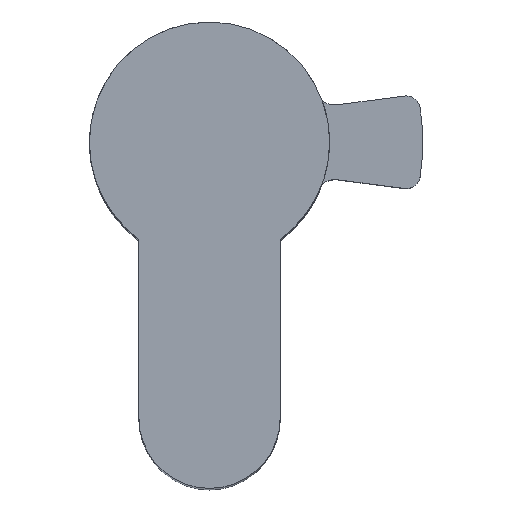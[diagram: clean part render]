
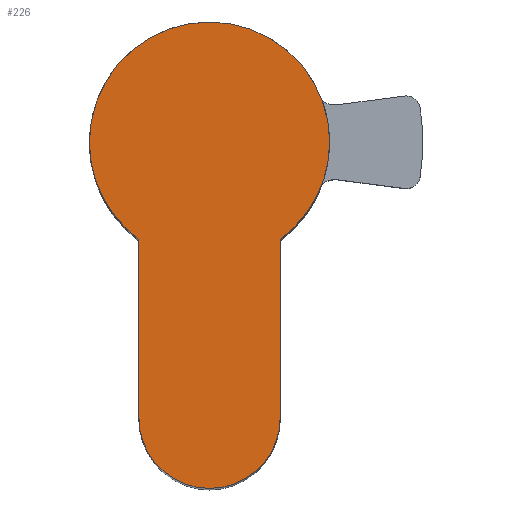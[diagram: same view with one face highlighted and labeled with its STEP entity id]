
A CAD part, top view. The second image highlights one B-rep face of the part: STEP entity #226.
In plain terms, the highlighted planar face has unit normal (0, 0, 1).
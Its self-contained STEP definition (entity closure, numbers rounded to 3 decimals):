
#24 = EDGE_CURVE ( 'NONE', #1048, #1333, #161, .T. ) ;
#34 = AXIS2_PLACEMENT_3D ( 'NONE', #697, #83, #1166 ) ;
#83 = DIRECTION ( 'NONE',  ( 0., 0., 1. ) ) ;
#107 = EDGE_CURVE ( 'NONE', #1333, #436, #1378, .T. ) ;
#152 = ORIENTED_EDGE ( 'NONE', *, *, #24, .T. ) ;
#161 = CIRCLE ( 'NONE', #1455, 8.5 ) ;
#167 = CIRCLE ( 'NONE', #445, 8.5 ) ;
#184 = CARTESIAN_POINT ( 'NONE',  ( -5., -19.5, 10. ) ) ;
#185 = ORIENTED_EDGE ( 'NONE', *, *, #994, .T. ) ;
#221 = DIRECTION ( 'NONE',  ( 1., 0., 0. ) ) ;
#226 = ADVANCED_FACE ( 'NONE', ( #858 ), #1426, .T. ) ;
#237 = ORIENTED_EDGE ( 'NONE', *, *, #1445, .T. ) ;
#254 = ORIENTED_EDGE ( 'NONE', *, *, #1106, .T. ) ;
#304 = DIRECTION ( 'NONE',  ( 1., 0., 0. ) ) ;
#341 = CARTESIAN_POINT ( 'NONE',  ( 0., 0., 10. ) ) ;
#361 = DIRECTION ( 'NONE',  ( 0., -1., 0. ) ) ;
#364 = DIRECTION ( 'NONE',  ( 0., 0., 1. ) ) ;
#379 = CARTESIAN_POINT ( 'NONE',  ( 0., 0., 10. ) ) ;
#436 = VERTEX_POINT ( 'NONE', #988 ) ;
#445 = AXIS2_PLACEMENT_3D ( 'NONE', #341, #364, #1545 ) ;
#459 = CARTESIAN_POINT ( 'NONE',  ( -8.5, 0., 10. ) ) ;
#464 = DIRECTION ( 'NONE',  ( 0., 0., 1. ) ) ;
#491 = VERTEX_POINT ( 'NONE', #802 ) ;
#582 = EDGE_LOOP ( 'NONE', ( #185, #152, #742, #237, #886, #254 ) ) ;
#613 = AXIS2_PLACEMENT_3D ( 'NONE', #379, #1099, #1322 ) ;
#643 = CIRCLE ( 'NONE', #1517, 5. ) ;
#697 = CARTESIAN_POINT ( 'NONE',  ( 0., 0., 10. ) ) ;
#742 = ORIENTED_EDGE ( 'NONE', *, *, #107, .T. ) ;
#802 = CARTESIAN_POINT ( 'NONE',  ( 5., -19.5, 10. ) ) ;
#833 = LINE ( 'NONE', #1306, #1490 ) ;
#858 = FACE_OUTER_BOUND ( 'NONE', #582, .T. ) ;
#867 = CARTESIAN_POINT ( 'NONE',  ( 5., -6.874, 10. ) ) ;
#874 = VECTOR ( 'NONE', #1350, 1000. ) ;
#886 = ORIENTED_EDGE ( 'NONE', *, *, #1374, .T. ) ;
#956 = CARTESIAN_POINT ( 'NONE',  ( 0., -19.5, 10. ) ) ;
#988 = CARTESIAN_POINT ( 'NONE',  ( -5., -6.874, 10. ) ) ;
#994 = EDGE_CURVE ( 'NONE', #1533, #1048, #167, .T. ) ;
#1048 = VERTEX_POINT ( 'NONE', #1446 ) ;
#1099 = DIRECTION ( 'NONE',  ( 0., 0., 1. ) ) ;
#1106 = EDGE_CURVE ( 'NONE', #491, #1533, #1452, .T. ) ;
#1123 = CARTESIAN_POINT ( 'NONE',  ( 5., -19.5, 10. ) ) ;
#1166 = DIRECTION ( 'NONE',  ( 1., 0., 0. ) ) ;
#1172 = VERTEX_POINT ( 'NONE', #184 ) ;
#1306 = CARTESIAN_POINT ( 'NONE',  ( -5., -6.874, 10. ) ) ;
#1322 = DIRECTION ( 'NONE',  ( 1., 0., 0. ) ) ;
#1333 = VERTEX_POINT ( 'NONE', #459 ) ;
#1350 = DIRECTION ( 'NONE',  ( 0., 1., 0. ) ) ;
#1369 = CARTESIAN_POINT ( 'NONE',  ( 0., 0., 10. ) ) ;
#1374 = EDGE_CURVE ( 'NONE', #1172, #491, #643, .T. ) ;
#1378 = CIRCLE ( 'NONE', #34, 8.5 ) ;
#1426 = PLANE ( 'NONE',  #613 ) ;
#1445 = EDGE_CURVE ( 'NONE', #436, #1172, #833, .T. ) ;
#1446 = CARTESIAN_POINT ( 'NONE',  ( 8.5, 0., 10. ) ) ;
#1452 = LINE ( 'NONE', #1123, #874 ) ;
#1455 = AXIS2_PLACEMENT_3D ( 'NONE', #1369, #1476, #304 ) ;
#1476 = DIRECTION ( 'NONE',  ( 0., 0., 1. ) ) ;
#1490 = VECTOR ( 'NONE', #361, 1000. ) ;
#1517 = AXIS2_PLACEMENT_3D ( 'NONE', #956, #464, #221 ) ;
#1533 = VERTEX_POINT ( 'NONE', #867 ) ;
#1545 = DIRECTION ( 'NONE',  ( 1., 0., 0. ) ) ;
